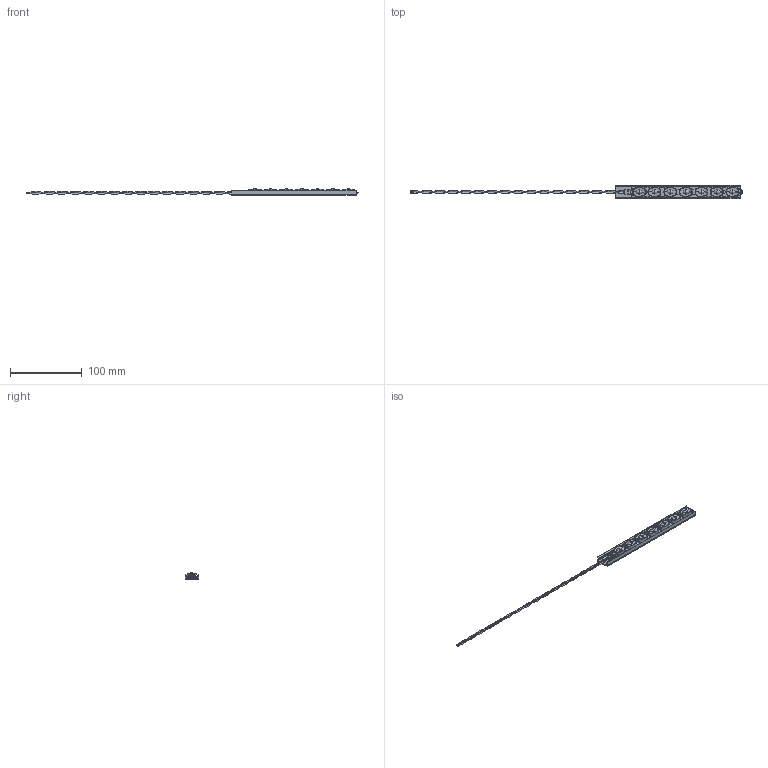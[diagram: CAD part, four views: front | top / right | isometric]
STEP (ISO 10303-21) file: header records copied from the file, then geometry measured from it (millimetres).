
FILE_DESCRIPTION (( 'STEP AP203' ), '1' );
FILE_NAME ('L09_6 in_15X40.STEP', '2020-05-15T16:39:56', ( '' ), ( '' ), 'SwSTEP 2.0', 'SolidWorks 2017', '' );
FILE_SCHEMA (( 'CONFIG_CONTROL_DESIGN' ));
Length unit declared in the file: millimetre
Products named in the file (12): L09_6 in_15X40; HSG-000250-00_For 6 INCH; PCB-000101_102-00_PCB-000101-00; ACB-000214-00; AVX-60-9159-3402-0X-000_60-9159-3402-0X-000; REF-000074-01; AVX-11-9159-002-101-916_11-9159-002-101-X16_With wires; CON-000199-00; ASY-006401-01; AVX-60-9159-3302-0X-000_60-9159-3302-0X-000; OPC-000138-00; CON-000198-00
Assembly tree (17 placements, depth 3):
  L09_6 in_15X40
    PCB-000101_102-00_PCB-000101-00
    HSG-000250-00_For 6 INCH
    CON-000199-00
    CON-000198-00
    ASY-006401-01
      REF-000074-01
      OPC-000138-00  x7
    ACB-000214-00
      AVX-11-9159-002-101-916_11-9159-002-101-X16_With wires
      AVX-60-9159-3302-0X-000_60-9159-3302-0X-000
      AVX-60-9159-3402-0X-000_60-9159-3402-0X-000
Bounding box: 464.1 x 18.5 x 9.45 mm (x, y, z)
Volume: 17368.7 mm3; surface area: 30246.5 mm2
Topology: 15 solids, 17 shells, 1390 faces, 3871 edges, 2513 vertices
Faces by surface type: plane 686, cylinder 384, bspline 307, cone 12, torus 1
Entity records: 116376 total; most frequent: CARTESIAN_POINT 87970, ORIENTED_EDGE 6106, DIRECTION 4986, EDGE_CURVE 3053, VERTEX_POINT 2027, VECTOR 1888, LINE 1888, AXIS2_PLACEMENT_3D 1549
